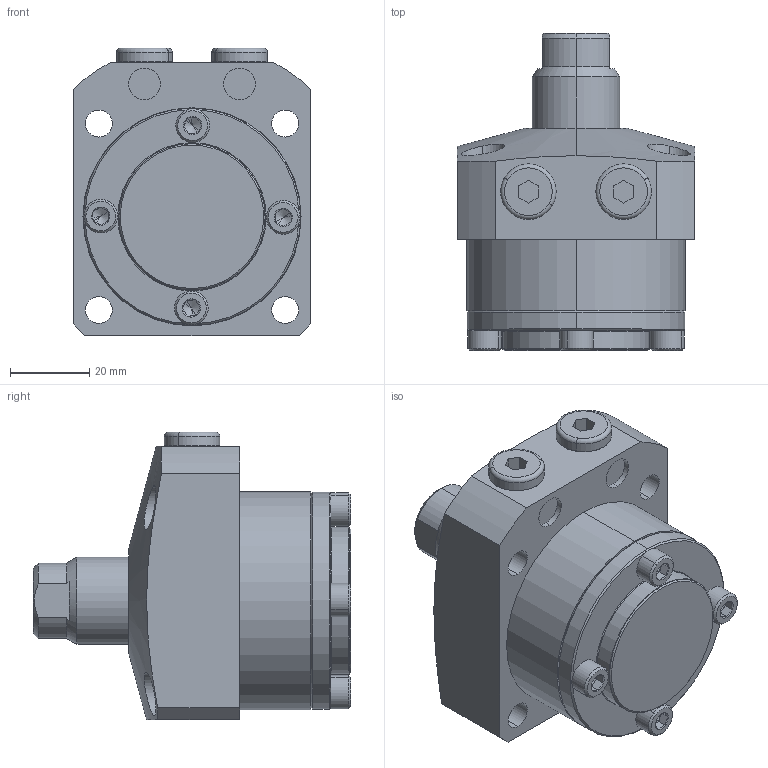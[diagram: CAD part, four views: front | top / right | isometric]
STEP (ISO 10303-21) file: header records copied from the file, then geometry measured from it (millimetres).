
FILE_DESCRIPTION (( 'STEP AP203' ), '1' );
FILE_NAME ('680550-CA-015.step', '2016-11-02T03:23:15', ( 'wxp' ), ( '' ), 'SwSTEP 2.0', 'SolidWorks 2011', '' );
FILE_SCHEMA (( 'CONFIG_CONTROL_DESIGN' ));
Length unit declared in the file: millimetre
Products named in the file (6): 680550-CA-015; 葩璃 68055-CA-15-5^680550-CA-015; 葩璃 68055-CA-15-4^680550-CA-015; 葩璃 68055-CA-15-3^680550-CA-015; 葩璃 68055-CA-15-2^680550-CA-015; 葩璃 68055-CA-15-1^680550-CA-015
Assembly tree (9 placements, depth 2):
  680550-CA-015
    葩璃 68055-CA-15-3^680550-CA-015
    葩璃 68055-CA-15-2^680550-CA-015
    葩璃 68055-CA-15-4^680550-CA-015  x4
    葩璃 68055-CA-15-5^680550-CA-015  x2
    葩璃 68055-CA-15-1^680550-CA-015
Bounding box: 60 x 80 x 72.5 mm (x, y, z)
Volume: 158604.6 mm3; surface area: 33278.3 mm2
Topology: 9 solids, 9 shells, 279 faces, 555 edges, 312 vertices
Faces by surface type: plane 110, cylinder 81, cone 72, torus 16
Entity records: 5504 total; most frequent: CARTESIAN_POINT 1199, DIRECTION 827, ORIENTED_EDGE 674, AXIS2_PLACEMENT_3D 346, EDGE_CURVE 337, VERTEX_POINT 205, EDGE_LOOP 194, CIRCLE 174
